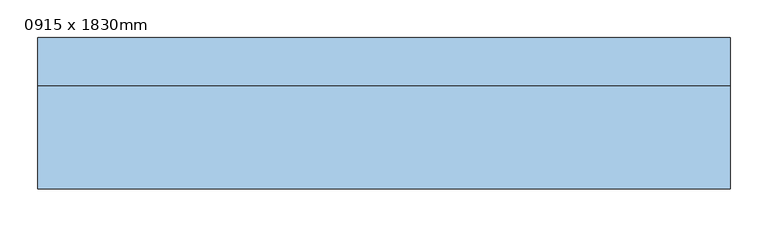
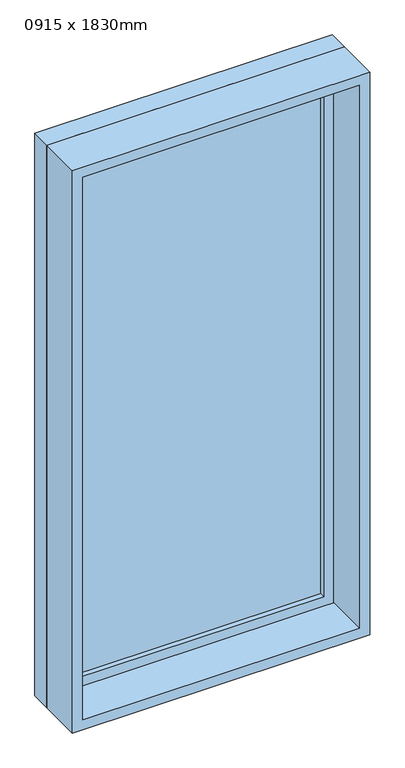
"""IFC4 building model written with IfcOpenShell, lengths in millimetres: window geometry, 固定 : 0915 x 1830mm."""

from ifc_helpers import new_model, si_unit, frame, origin, place, context, project, spatial, polyline, outline, extrude, source, transform, mapped, element, save


def window_0915_x_1830mm_5d6e8bc1(model_context):
    return source(origin(), model_context, "Body", "SweptSolid", [
        extrude(outline(polyline([(-394.5, 78.0), (394.5, 78.0), (394.5, 66.0), (-394.5, 66.0), (-394.5, 78.0)])), frame((0.0, 0.0, 368.0), z_axis=(0.0, 0.0, 1.0), x_axis=(1.0, 0.0, 0.0)), (0.0, 0.0, 1.0), 1704.0),
        extrude(outline(polyline([(2116.0, -438.5), (324.0, -438.5), (324.0, 438.5), (2116.0, 438.5), (2116.0, -438.5)]), holes=[polyline([(2072.0, -394.5), (2072.0, 394.5), (368.0, 394.5), (368.0, -394.5), (2072.0, -394.5)])]), frame((0.0, 50.0, 0.0), z_axis=(0.0, 1.0, 0.0), x_axis=(0.0, 0.0, 1.0)), (0.0, 0.0, 1.0), 44.0),
        extrude(outline(polyline([(2135.0, -457.5), (305.0, -457.5), (305.0, 457.5), (2135.0, 457.5), (2135.0, -457.5)]), holes=[polyline([(2116.0, -438.5), (2116.0, 438.5), (324.0, 438.5), (324.0, -438.5), (2116.0, -438.5)])]), frame((0.0, 50.0, 0.0), z_axis=(0.0, 1.0, 0.0), x_axis=(0.0, 0.0, 1.0)), (0.0, 0.0, 1.0), 63.0),
        extrude(outline(polyline([(2135.0, -457.5), (305.0, -457.5), (305.0, 457.5), (2135.0, 457.5), (2135.0, -457.5)]), holes=[polyline([(2103.0, -425.5), (2103.0, 425.5), (337.0, 425.5), (337.0, -425.5), (2103.0, -425.5)])]), frame((0.0, -87.0, 0.0), z_axis=(0.0, 1.0, 0.0), x_axis=(0.0, 0.0, 1.0)), (0.0, 0.0, 1.0), 137.0),
    ])


if __name__ == "__main__":
    model = new_model("IFC4")
    model_context = context("Model", 3, world=origin())
    ifc_project = project(units=[si_unit("LENGTHUNIT", "METRE", prefix="MILLI")], contexts=[model_context])
    site = spatial("IfcSite", under=ifc_project)
    building = spatial("IfcBuilding", under=site)
    placement = place(None, origin())
    window_0915_x_1830mm_shape = window_0915_x_1830mm_5d6e8bc1(model_context)
    element("IfcWindow", 1, ObjectType="固定 : 0915 x 1830mm", at=placement, inside=building, context=model_context, shape_type="MappedRepresentation", body=[
        mapped(window_0915_x_1830mm_shape, transform((0.0, 0.0, 0.0), x_axis=(1.0, 0.0, 0.0), y_axis=(0.0, 1.0, 0.0), z_axis=(0.0, 0.0, 1.0))),
    ])
    save(model, "model.ifc")
